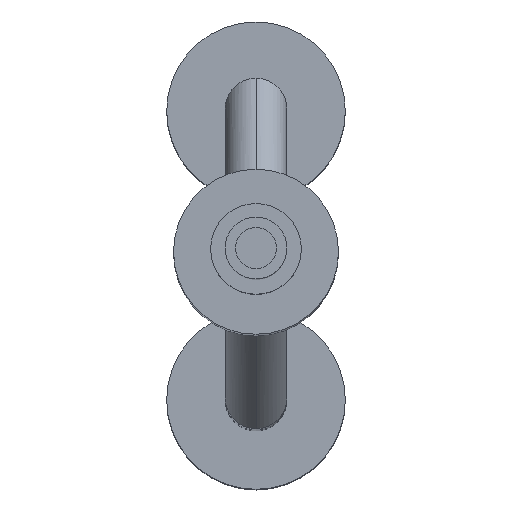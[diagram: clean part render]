
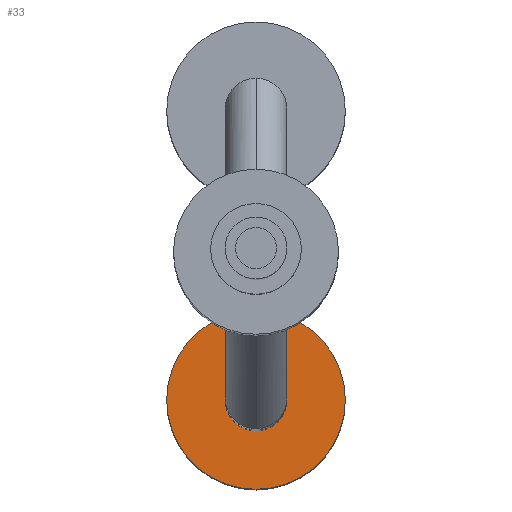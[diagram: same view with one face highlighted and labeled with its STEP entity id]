
A CAD part, top view. The second image highlights one B-rep face of the part: STEP entity #33.
In plain terms, the highlighted planar face has unit normal (0, 0, 1) as drawn and (-1, 0, 0) by its records, which use the part's own axes.
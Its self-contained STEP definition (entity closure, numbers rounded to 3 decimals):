
#33 = ADVANCED_FACE ( 'NONE', ( #577, #576 ), #575, .F. ) ;
#34 = EDGE_LOOP ( 'NONE', ( #35, #36 ) ) ;
#35 = ORIENTED_EDGE ( 'NONE', *, *, #515, .F. ) ;
#36 = ORIENTED_EDGE ( 'NONE', *, *, #37, .F. ) ;
#37 = EDGE_CURVE ( 'NONE', #517, #516, #570, .T. ) ;
#38 = EDGE_LOOP ( 'NONE', ( #39, #41 ) ) ;
#39 = ORIENTED_EDGE ( 'NONE', *, *, #40, .F. ) ;
#40 = EDGE_CURVE ( 'NONE', #467, #464, #564, .T. ) ;
#41 = ORIENTED_EDGE ( 'NONE', *, *, #466, .F. ) ;
#464 = VERTEX_POINT ( 'NONE', #1302 ) ;
#466 = EDGE_CURVE ( 'NONE', #464, #467, #1367, .T. ) ;
#467 = VERTEX_POINT ( 'NONE', #1362 ) ;
#515 = EDGE_CURVE ( 'NONE', #516, #517, #1415, .T. ) ;
#516 = VERTEX_POINT ( 'NONE', #1406 ) ;
#517 = VERTEX_POINT ( 'NONE', #1405 ) ;
#560 = DIRECTION ( 'NONE',  ( 0., 0., -1. ) ) ;
#561 = DIRECTION ( 'NONE',  ( -1., 0., 0. ) ) ;
#562 = CARTESIAN_POINT ( 'NONE',  ( 106., -3.5, 0. ) ) ;
#563 = AXIS2_PLACEMENT_3D ( 'NONE', #562, #561, #560 ) ;
#564 = CIRCLE ( 'NONE', #563, 0.75 ) ;
#566 = DIRECTION ( 'NONE',  ( 0., 0., -1. ) ) ;
#567 = DIRECTION ( 'NONE',  ( 1., 0., 0. ) ) ;
#568 = CARTESIAN_POINT ( 'NONE',  ( 106., -3.5, 0. ) ) ;
#569 = AXIS2_PLACEMENT_3D ( 'NONE', #568, #567, #566 ) ;
#570 = CIRCLE ( 'NONE', #569, 2.165 ) ;
#571 = DIRECTION ( 'NONE',  ( 0., 0., -1. ) ) ;
#572 = DIRECTION ( 'NONE',  ( 1., 0., 0. ) ) ;
#573 = CARTESIAN_POINT ( 'NONE',  ( 106., -3.5, 0. ) ) ;
#574 = AXIS2_PLACEMENT_3D ( 'NONE', #573, #572, #571 ) ;
#575 = PLANE ( 'NONE',  #574 ) ;
#576 = FACE_BOUND ( 'NONE', #38, .T. ) ;
#577 = FACE_OUTER_BOUND ( 'NONE', #34, .T. ) ;
#1302 = CARTESIAN_POINT ( 'NONE',  ( 106., -3.5, 0.75 ) ) ;
#1362 = CARTESIAN_POINT ( 'NONE',  ( 106., -3.5, -0.75 ) ) ;
#1363 = DIRECTION ( 'NONE',  ( 0., 0., -1. ) ) ;
#1364 = DIRECTION ( 'NONE',  ( -1., 0., 0. ) ) ;
#1365 = CARTESIAN_POINT ( 'NONE',  ( 106., -3.5, 0. ) ) ;
#1366 = AXIS2_PLACEMENT_3D ( 'NONE', #1365, #1364, #1363 ) ;
#1367 = CIRCLE ( 'NONE', #1366, 0.75 ) ;
#1405 = CARTESIAN_POINT ( 'NONE',  ( 106., -3.5, 2.165 ) ) ;
#1406 = CARTESIAN_POINT ( 'NONE',  ( 106., -3.5, -2.165 ) ) ;
#1407 = DIRECTION ( 'NONE',  ( 0., 0., -1. ) ) ;
#1408 = DIRECTION ( 'NONE',  ( 1., 0., 0. ) ) ;
#1409 = CARTESIAN_POINT ( 'NONE',  ( 106., -3.5, 0. ) ) ;
#1410 = AXIS2_PLACEMENT_3D ( 'NONE', #1409, #1408, #1407 ) ;
#1415 = CIRCLE ( 'NONE', #1410, 2.165 ) ;
